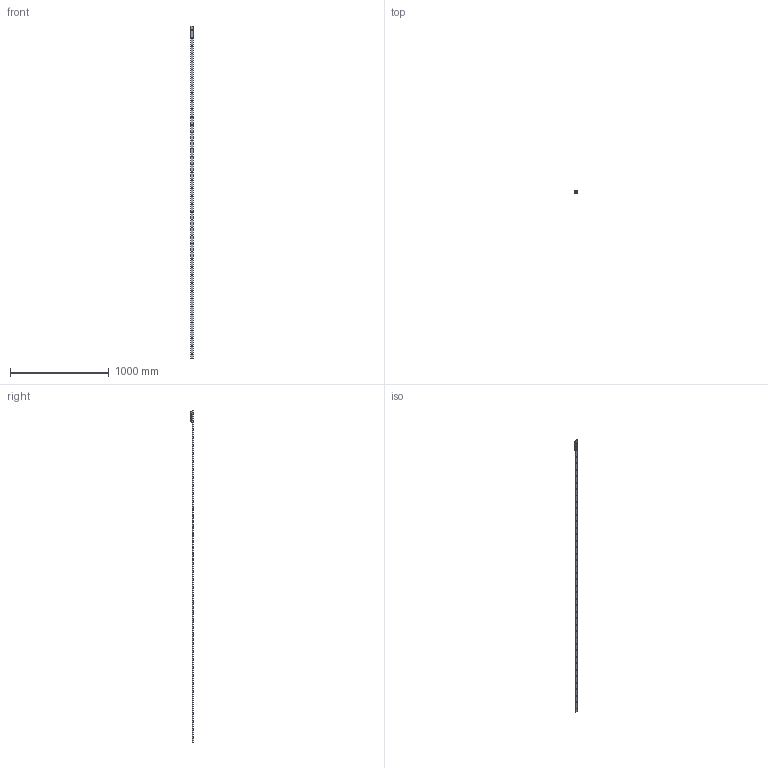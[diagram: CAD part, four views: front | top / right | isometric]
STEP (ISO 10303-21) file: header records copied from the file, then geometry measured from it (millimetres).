
FILE_DESCRIPTION( ( 'STEP AP214' ), '1' );
FILE_NAME( 'p:/temp/worker_23/temp/exporttempdir_3620_366_aJtw6/format_0/TGV-03360_1_RV28G-3.stp', '2020-11-20T16:44:04', ( 'License CC BY-ND 4.0' ), ( 'CADENAS' ), ' ', 'PARTsolutions', ' ' );
FILE_SCHEMA( ( 'AUTOMOTIVE_DESIGN { 1 0 10303 214 1 1 1 1 }' ) );
Length unit declared in the file: millimetre
Products named in the file (6): TGV-03360/1/RV28G-3; _TGV28-3360-(3-1); _RV28G-3-slider; _RGNV28R; _RGAV28R; _WR28G-01
Assembly tree (7 placements, depth 2):
  TGV-03360/1/RV28G-3
    _TGV28-3360-(3-1)
    _RV28G-3-slider
    _RGNV28R  x2
    _RGAV28R
    _WR28G-01  x2
Bounding box: 28 x 24 x 3360 mm (x, y, z)
Volume: 521603.5 mm3; surface area: 335903.8 mm2
Topology: 7 solids, 7 shells, 1096 faces, 2855 edges, 1855 vertices
Faces by surface type: plane 657, cylinder 322, cone 82, bspline 26, torus 9
Full cylindrical faces by diameter (mm): 1.27 x4, 2 x2, 2.5 x6, 4 x4, 4.134 x4, 4.2 x3, 5 x3, 5.5 x3, 5.75 x42, 7 x5, 7.5 x1, 8 x6, 10.8 x3, 17 x3, 20.75 x6
Entity records: 26991 total; most frequent: CARTESIAN_POINT 4211, DIRECTION 3620, ORIENTED_EDGE 3246, EDGE_CURVE 1623, AXIS2_PLACEMENT_3D 1415, VERTEX_POINT 1155, EDGE_LOOP 1043, FACE_OUTER_BOUND 807
